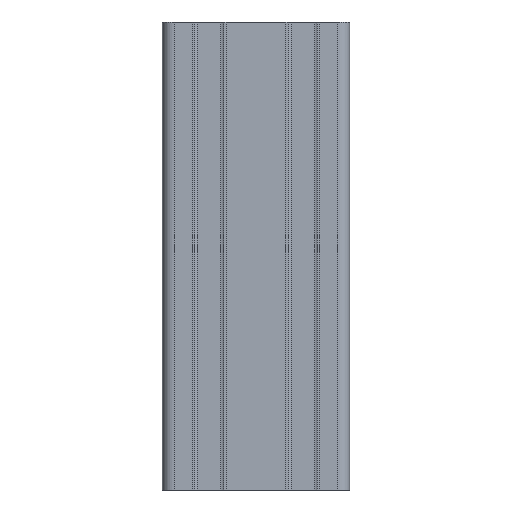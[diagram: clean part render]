
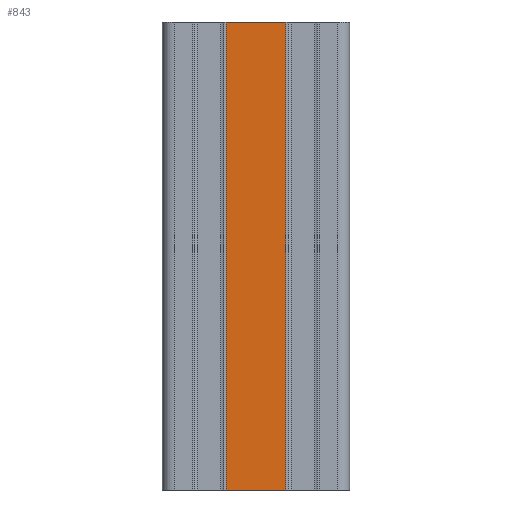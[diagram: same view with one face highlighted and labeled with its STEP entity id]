
A CAD part, front view. The second image highlights one B-rep face of the part: STEP entity #843.
In plain terms, the highlighted planar face has unit normal (0, -1, 0).
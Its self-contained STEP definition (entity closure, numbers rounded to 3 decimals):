
#96 = ORIENTED_EDGE ( 'NONE', *, *, #700, .T. ) ;
#240 = AXIS2_PLACEMENT_3D ( 'NONE', #313, #2743, #663 ) ;
#313 = CARTESIAN_POINT ( 'NONE',  ( 10., -10., -100. ) ) ;
#491 = CARTESIAN_POINT ( 'NONE',  ( 3.6, -10., -100. ) ) ;
#586 = VERTEX_POINT ( 'NONE', #2862 ) ;
#663 = DIRECTION ( 'NONE',  ( 0., 0., -1. ) ) ;
#700 = EDGE_CURVE ( 'NONE', #4223, #1611, #3976, .T. ) ;
#790 = DIRECTION ( 'NONE',  ( 0., 0., 1. ) ) ;
#843 = ADVANCED_FACE ( 'NONE', ( #2820 ), #2400, .T. ) ;
#862 = ORIENTED_EDGE ( 'NONE', *, *, #4079, .F. ) ;
#1117 = ORIENTED_EDGE ( 'NONE', *, *, #3496, .F. ) ;
#1463 = VECTOR ( 'NONE', #2236, 1000. ) ;
#1537 = DIRECTION ( 'NONE',  ( 0., 0., 1. ) ) ;
#1577 = CARTESIAN_POINT ( 'NONE',  ( 10., -10., 0. ) ) ;
#1611 = VERTEX_POINT ( 'NONE', #2532 ) ;
#1787 = VECTOR ( 'NONE', #790, 1000. ) ;
#2070 = VERTEX_POINT ( 'NONE', #3861 ) ;
#2236 = DIRECTION ( 'NONE',  ( 1., 0., 0. ) ) ;
#2263 = CARTESIAN_POINT ( 'NONE',  ( 3.6, -10., -100. ) ) ;
#2400 = PLANE ( 'NONE',  #240 ) ;
#2438 = ORIENTED_EDGE ( 'NONE', *, *, #2946, .T. ) ;
#2489 = VECTOR ( 'NONE', #3826, 1000. ) ;
#2532 = CARTESIAN_POINT ( 'NONE',  ( 16.4, -10., -100. ) ) ;
#2671 = LINE ( 'NONE', #491, #3434 ) ;
#2730 = LINE ( 'NONE', #2865, #1787 ) ;
#2743 = DIRECTION ( 'NONE',  ( 0., -1., 0. ) ) ;
#2820 = FACE_OUTER_BOUND ( 'NONE', #3316, .T. ) ;
#2862 = CARTESIAN_POINT ( 'NONE',  ( 3.6, -10., 0. ) ) ;
#2865 = CARTESIAN_POINT ( 'NONE',  ( 16.4, -10., -100. ) ) ;
#2946 = EDGE_CURVE ( 'NONE', #1611, #2070, #2730, .T. ) ;
#3316 = EDGE_LOOP ( 'NONE', ( #96, #2438, #862, #1117 ) ) ;
#3380 = LINE ( 'NONE', #1577, #2489 ) ;
#3434 = VECTOR ( 'NONE', #1537, 1000. ) ;
#3496 = EDGE_CURVE ( 'NONE', #4223, #586, #2671, .T. ) ;
#3593 = CARTESIAN_POINT ( 'NONE',  ( 10., -10., -100. ) ) ;
#3826 = DIRECTION ( 'NONE',  ( 1., 0., 0. ) ) ;
#3861 = CARTESIAN_POINT ( 'NONE',  ( 16.4, -10., 0. ) ) ;
#3976 = LINE ( 'NONE', #3593, #1463 ) ;
#4079 = EDGE_CURVE ( 'NONE', #586, #2070, #3380, .T. ) ;
#4223 = VERTEX_POINT ( 'NONE', #2263 ) ;
